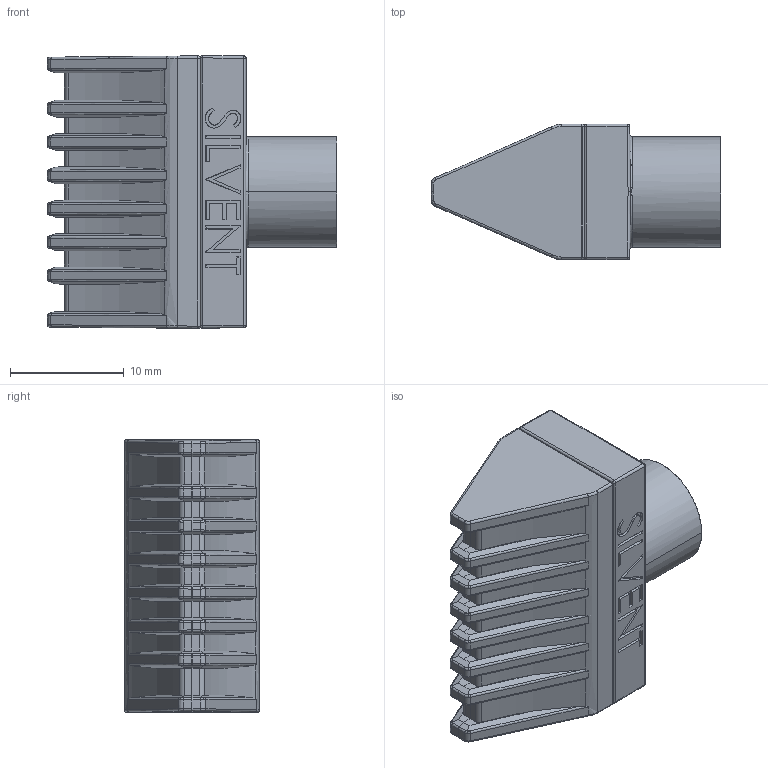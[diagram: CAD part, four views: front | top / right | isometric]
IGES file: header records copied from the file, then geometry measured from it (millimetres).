
Start section: SolidWorks IGES file using analytic representation for surfaces
Global section: file name: C:\PDMVault\Libraries\IGES\SILVENT_9001W-Z.IGS; native system: SolidWorks 2021; preprocessor: SolidWorks 2021; author: a.olander; date: 240215.144535; units: millimetre
Bounding box: 25.46 x 11.93 x 24.02 mm (x, y, z)
Surface area: 2472.4 mm2 (no closed solid volume)
Topology: 0 solids, 0 shells, 542 faces, 3684 edges, 3673 vertices
Faces by surface type: bspline 369, revolution 173
